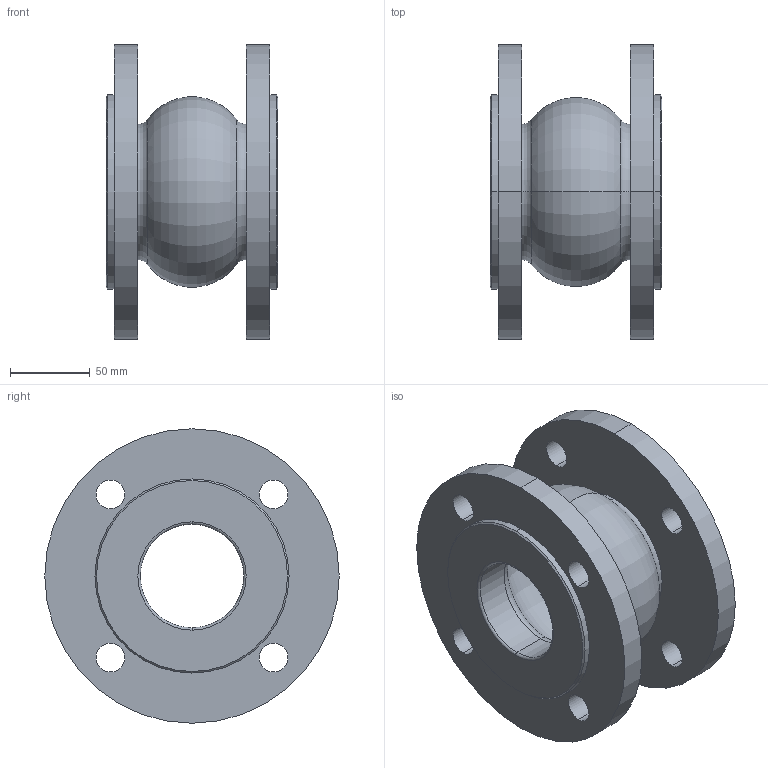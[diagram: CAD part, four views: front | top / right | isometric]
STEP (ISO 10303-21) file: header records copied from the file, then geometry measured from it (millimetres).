
FILE_DESCRIPTION (( 'STEP AP203' ), '1' );
FILE_NAME ('F8_PN16_DN065.STEP', '2012-10-31T08:44:14', ( 'luca.saino' ), ( 'Hewlett-Packard Company' ), 'SwSTEP 2.0', 'SolidWorks 2012', '' );
FILE_SCHEMA (( 'CONFIG_CONTROL_DESIGN' ));
Length unit declared in the file: millimetre
Products named in the file (1): F8_PN16_DN065
Bounding box: 108 x 185 x 185 mm (x, y, z)
Volume: 952739 mm3; surface area: 170061.6 mm2
Topology: 1 solids, 1 shells, 58 faces, 132 edges, 80 vertices
Faces by surface type: cylinder 28, torus 16, cone 8, plane 6
Entity records: 1773 total; most frequent: DIRECTION 346, CARTESIAN_POINT 271, ORIENTED_EDGE 264, AXIS2_PLACEMENT_3D 155, EDGE_CURVE 132, CIRCLE 96, VERTEX_POINT 80, EDGE_LOOP 80
